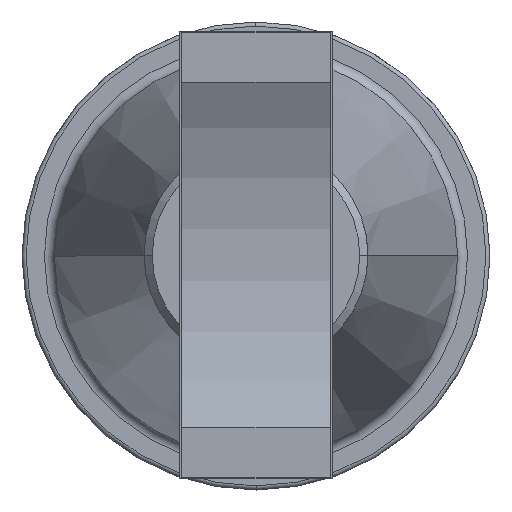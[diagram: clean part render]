
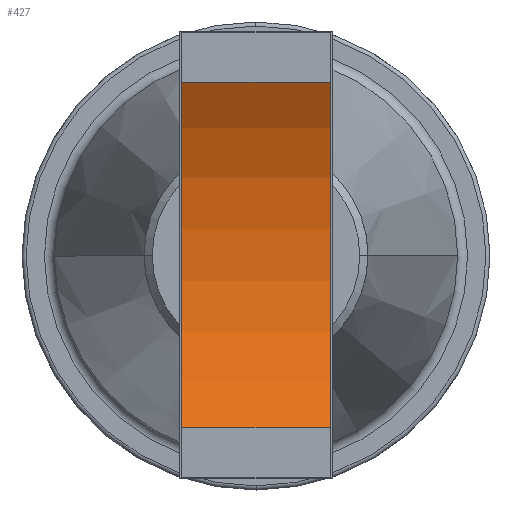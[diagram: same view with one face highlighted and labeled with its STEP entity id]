
A CAD part, top view. The second image highlights one B-rep face of the part: STEP entity #427.
In plain terms, the highlighted cylindrical face has radius 161.95 mm (diameter 323.9 mm), a partial arc.
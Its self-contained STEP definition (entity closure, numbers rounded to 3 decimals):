
#427=ADVANCED_FACE('',(#827),#828,.F.);
#827=FACE_OUTER_BOUND('',#1228,.T.);
#828=CYLINDRICAL_SURFACE('',#1229,161.95);
#1228=EDGE_LOOP('',(#2233,#2234,#2235,#2236));
#1229=AXIS2_PLACEMENT_3D('',#2237,#2238,#2239);
#2233=ORIENTED_EDGE('',*,*,#2672,.T.);
#2234=ORIENTED_EDGE('',*,*,#2673,.F.);
#2235=ORIENTED_EDGE('',*,*,#2674,.T.);
#2236=ORIENTED_EDGE('',*,*,#2669,.T.);
#2237=CARTESIAN_POINT('',(450.756,621.511,230.975));
#2238=DIRECTION('',(1.0,0.,0.));
#2239=DIRECTION('',(0.,1.0,0.));
#2669=EDGE_CURVE('',#3246,#3244,#3247,.T.);
#2672=EDGE_CURVE('',#3244,#3250,#3251,.T.);
#2673=EDGE_CURVE('',#3252,#3250,#3253,.T.);
#2674=EDGE_CURVE('',#3252,#3246,#3254,.T.);
#3244=VERTEX_POINT('',#4539);
#3246=VERTEX_POINT('',#4542);
#3247=LINE('',#4543,#4544);
#3250=VERTEX_POINT('',#4548);
#3251=CIRCLE('',#4549,161.95);
#3252=VERTEX_POINT('',#4550);
#3253=LINE('',#4551,#4552);
#3254=CIRCLE('',#4553,161.95);
#4539=CARTESIAN_POINT('',(523.756,536.672,93.025));
#4542=CARTESIAN_POINT('',(450.756,536.672,93.025));
#4543=CARTESIAN_POINT('',(450.756,536.672,93.025));
#4544=VECTOR('',#5013,1.0);
#4548=CARTESIAN_POINT('',(523.756,706.349,93.025));
#4549=AXIS2_PLACEMENT_3D('',#5015,#5016,#5017);
#4550=CARTESIAN_POINT('',(450.756,706.349,93.025));
#4551=CARTESIAN_POINT('',(450.756,706.349,93.025));
#4552=VECTOR('',#5018,1.0);
#4553=AXIS2_PLACEMENT_3D('',#5019,#5020,#5021);
#5013=DIRECTION('',(1.0,0.,0.));
#5015=CARTESIAN_POINT('',(523.756,621.511,230.975));
#5016=DIRECTION('',(1.0,0.,0.));
#5017=DIRECTION('',(0.,1.0,0.));
#5018=DIRECTION('',(1.0,0.,0.));
#5019=CARTESIAN_POINT('',(450.756,621.511,230.975));
#5020=DIRECTION('',(-1.0,0.,0.));
#5021=DIRECTION('',(0.,1.0,0.));
